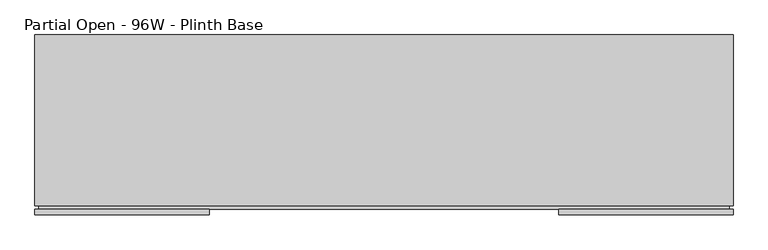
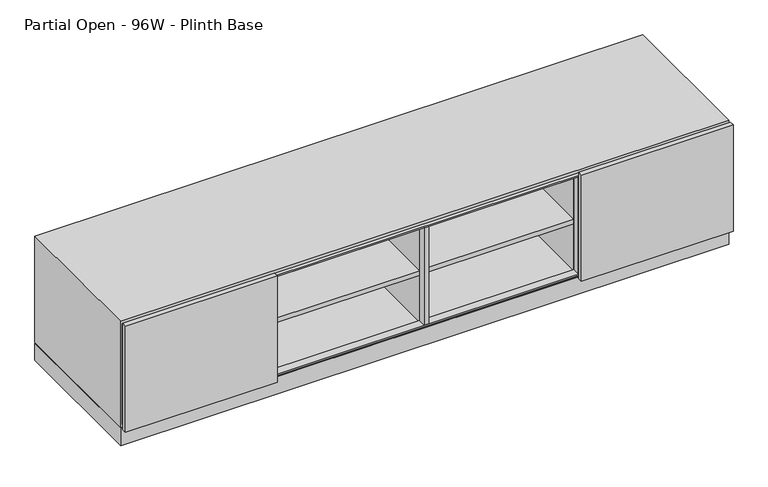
"""IFC4 building model written with IfcOpenShell, lengths in millimetres: furniture geometry, Steelcase Coalesse - Exponents - Storage - Credenza - 21H : Partial Open - 96W - Plinth Base."""

from ifc_helpers import new_model, si_unit, point, frame, frame_2d, origin, origin_with_axes, place, context, project, spatial, polyline, circle_curve, trimmed, segment, composite_curve, outline, extrude, faceted_brep, source, transform, mapped, element, save


def partial_open_96w_plinth_base_0009ec2c(model_context):
    return source(origin(), model_context, "Body", "SolidModel", [
        faceted_brep([(6.35, 31.75, 520.7), (6.35, 31.75, 95.25), (6.35, 622.3, 95.25), (6.35, 622.3, 520.7), (2432.05, 622.3, 95.25), (2432.05, 622.3, 520.7), (2432.05, 31.75, 95.25), (2432.05, 31.75, 520.7), (0.0, 31.75, 82.55), (2438.4, 31.75, 82.55), (2438.4, 31.75, 533.4), (0.0, 31.75, 533.4), (2438.4, 628.65, 82.55), (2438.4, 628.65, 533.4), (0.0, 628.65, 82.55), (0.0, 628.65, 533.4)], [[[0, 1, 2, 3]], [[3, 2, 4, 5]], [[5, 4, 6, 7]], [[8, 9, 10, 11], [7, 6, 1, 0]], [[10, 9, 12, 13]], [[13, 12, 14, 15]], [[15, 14, 8, 11]], [[7, 0, 3, 5]], [[10, 13, 15, 11]], [[1, 6, 4, 2]], [[12, 9, 8, 14]]]),
        extrude(outline(polyline([(520.7, 2425.7), (520.7, 12.7), (95.25, 12.7), (95.25, 2425.7), (520.7, 2425.7)]), holes=[polyline([(514.35, 2419.35), (101.6, 2419.35), (101.6, 19.05), (514.35, 19.05), (514.35, 2419.35)])]), frame((0.0, 19.05, 0.0), z_axis=(0.0, 1.0, 0.0), x_axis=(0.0, 0.0, 1.0)), (0.0, 0.0, 1.0), 31.75),
        extrude(outline(composite_curve([segment(trimmed(circle_curve(frame_2d((19.05, 593.5667033)), 6.35), [point((12.7, 593.5667033))], [point((25.4, 593.5667033))], False, "CARTESIAN"), True, "CONTINUOUS"), segment(trimmed(circle_curve(frame_2d((19.05, 593.5667033)), 6.35), [point((25.4, 593.5667033))], [point((12.7, 593.5667033))], False, "CARTESIAN"), True, "CONTINUOUS")], self_intersect=False)), origin_with_axes(), (0.0, 0.0, 1.0), 6.35),
        extrude(outline(composite_curve([segment(trimmed(circle_curve(frame_2d((19.05, 66.7867854)), 6.35), [point((12.7, 66.7867854))], [point((25.4, 66.7867854))], False, "CARTESIAN"), True, "CONTINUOUS"), segment(trimmed(circle_curve(frame_2d((19.05, 66.7867854)), 6.35), [point((25.4, 66.7867854))], [point((12.7, 66.7867854))], False, "CARTESIAN"), True, "CONTINUOUS")], self_intersect=False)), origin_with_axes(), (0.0, 0.0, 1.0), 6.35),
        extrude(outline(composite_curve([segment(trimmed(circle_curve(frame_2d((2419.35, 593.5667033)), 6.35), [point((2413.0, 593.5667033))], [point((2425.7, 593.5667033))], False, "CARTESIAN"), True, "CONTINUOUS"), segment(trimmed(circle_curve(frame_2d((2419.35, 593.5667033)), 6.35), [point((2425.7, 593.5667033))], [point((2413.0, 593.5667033))], False, "CARTESIAN"), True, "CONTINUOUS")], self_intersect=False)), origin_with_axes(), (0.0, 0.0, 1.0), 6.35),
        extrude(outline(composite_curve([segment(trimmed(circle_curve(frame_2d((2419.35, 66.7867854)), 6.35), [point((2413.0, 66.7867854))], [point((2425.7, 66.7867854))], False, "CARTESIAN"), True, "CONTINUOUS"), segment(trimmed(circle_curve(frame_2d((2419.35, 66.7867854)), 6.35), [point((2425.7, 66.7867854))], [point((2413.0, 66.7867854))], False, "CARTESIAN"), True, "CONTINUOUS")], self_intersect=False)), origin_with_axes(), (0.0, 0.0, 1.0), 6.35),
        extrude(outline(polyline([(2438.4, 19.05), (2438.4, 0.0), (1829.435, 0.0), (1829.435, 19.05), (2438.4, 19.05)])), frame((0.0, 0.0, 82.55), z_axis=(0.0, 0.0, 1.0), x_axis=(1.0, 0.0, 0.0)), (0.0, 0.0, 1.0), 450.85),
        extrude(outline(polyline([(608.965, 19.05), (608.965, 0.0), (0.0, 0.0), (0.0, 19.05), (608.965, 19.05)])), frame((0.0, 0.0, 82.55), z_axis=(0.0, 0.0, 1.0), x_axis=(1.0, 0.0, 0.0)), (0.0, 0.0, 1.0), 450.85),
        extrude(outline(polyline([(0.0, -19.05), (0.0, 0.0), (31.75, 0.0), (31.75, -19.05), (0.0, -19.05)])), frame((1828.8, 19.05, 101.6), z_axis=(2.934541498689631e-12, 0.0, 1.0), x_axis=(0.0, 1.0, 0.0)), (0.0, 0.0, 1.0), 412.75),
        extrude(outline(polyline([(0.0, -19.05), (0.0, 0.0), (31.75, 0.0), (31.75, -19.05), (0.0, -19.05)])), frame((1209.675, 19.05, 101.6), z_axis=(3.1477043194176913e-12, 0.0, 1.0), x_axis=(0.0, 1.0, 0.0)), (0.0, 0.0, 1.0), 412.75),
        extrude(outline(polyline([(0.0, -19.05), (0.0, 0.0), (31.75, 0.0), (31.75, -19.05), (0.0, -19.05)])), frame((590.55, 19.05, 101.6), z_axis=(3.3608671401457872e-12, 0.0, 1.0), x_axis=(0.0, 1.0, 0.0)), (0.0, 0.0, 1.0), 412.75),
        extrude(outline(polyline([(1209.675, 609.6), (1228.725, 609.6), (1228.725, 50.8), (1209.675, 50.8), (1209.675, 609.6)])), frame((0.0, 0.0, 95.25), z_axis=(0.0, 0.0, 1.0), x_axis=(1.0, 0.0, 0.0)), (0.0, 0.0, 1.0), 425.45),
        extrude(outline(polyline([(1828.8, 609.6), (1847.85, 609.6), (1847.85, 50.8), (1828.8, 50.8), (1828.8, 609.6)])), frame((0.0, 0.0, 95.25), z_axis=(0.0, 0.0, 1.0), x_axis=(1.0, 0.0, 0.0)), (0.0, 0.0, 1.0), 425.45),
        extrude(outline(polyline([(1828.8, 50.8), (1228.725, 50.8), (1228.725, 609.6), (1828.8, 609.6), (1828.8, 50.8)])), frame((0.0, 0.0, 295.275), z_axis=(0.0, 0.0, 1.0), x_axis=(1.0, 0.0, 0.0)), (0.0, 0.0, 1.0), 19.05),
        extrude(outline(polyline([(1209.675, 50.8), (609.6, 50.8), (609.6, 609.6), (1209.675, 609.6), (1209.675, 50.8)])), frame((0.0, 0.0, 295.275), z_axis=(0.0, 0.0, 1.0), x_axis=(1.0, 0.0, 0.0)), (0.0, 0.0, 1.0), 19.05),
        extrude(outline(polyline([(2438.4, 628.65), (2438.4, 31.75), (0.0, 31.75), (0.0, 628.65), (2438.4, 628.65)]), holes=[polyline([(2419.35, 622.3), (19.05, 622.3), (19.05, 38.1), (2419.35, 38.1), (2419.35, 622.3)])]), frame((0.0, 0.0, 6.35), z_axis=(0.0, 0.0, 1.0), x_axis=(1.0, 0.0, 0.0)), (0.0, 0.0, 1.0), 73.4568),
        extrude(outline(polyline([(590.55, 609.6), (609.6, 609.6), (609.6, 50.8), (590.55, 50.8), (590.55, 609.6)])), frame((0.0, 0.0, 95.25), z_axis=(0.0, 0.0, 1.0), x_axis=(1.0, 0.0, 0.0)), (0.0, 0.0, 1.0), 425.45),
    ])


if __name__ == "__main__":
    model = new_model("IFC4")
    model_context = context("Model", 3, world=origin())
    ifc_project = project(units=[si_unit("LENGTHUNIT", "METRE", prefix="MILLI")], contexts=[model_context])
    site = spatial("IfcSite", under=ifc_project)
    building = spatial("IfcBuilding", under=site)
    placement = place(None, origin())
    partial_open_96w_plinth_base_shape = partial_open_96w_plinth_base_0009ec2c(model_context)
    element("IfcFurniture", 1, ObjectType="Steelcase Coalesse - Exponents - Storage - Credenza - 21H : Partial Open - 96W - Plinth Base", at=placement, inside=building, context=model_context, shape_type="MappedRepresentation", body=[
        mapped(partial_open_96w_plinth_base_shape, transform((0.0, 0.0, 0.0), x_axis=(1.0, 0.0, 0.0), y_axis=(0.0, 1.0, 0.0), z_axis=(0.0, 0.0, 1.0))),
    ])
    save(model, "model.ifc")
